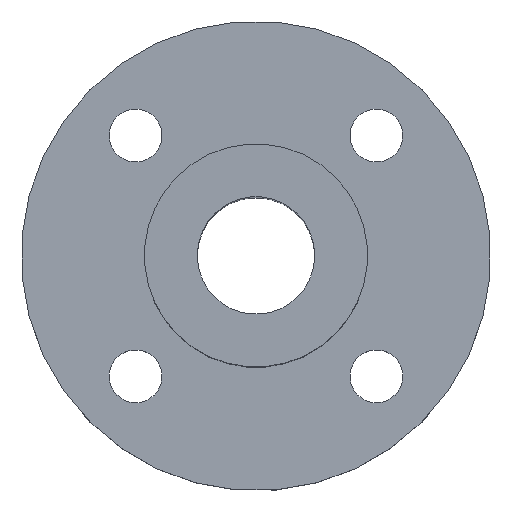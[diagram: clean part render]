
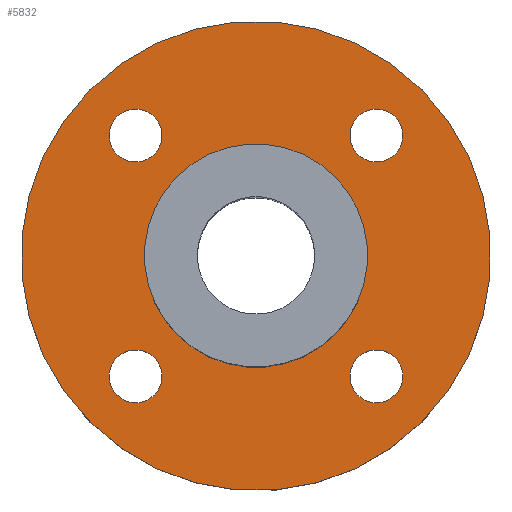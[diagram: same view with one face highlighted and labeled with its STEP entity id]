
A CAD part, top view. The second image highlights one B-rep face of the part: STEP entity #5832.
In plain terms, the highlighted planar face has unit normal (0, 0, 1).
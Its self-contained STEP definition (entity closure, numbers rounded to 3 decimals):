
#113=CIRCLE('',#6200,9.5);
#117=CIRCLE('',#6208,20.);
#118=CIRCLE('',#6210,2.25);
#119=CIRCLE('',#6211,2.25);
#120=CIRCLE('',#6212,2.25);
#121=CIRCLE('',#6213,2.25);
#528=ORIENTED_EDGE('',*,*,#2202,.F.);
#529=ORIENTED_EDGE('',*,*,#2203,.F.);
#530=ORIENTED_EDGE('',*,*,#2204,.F.);
#531=ORIENTED_EDGE('',*,*,#2205,.F.);
#532=ORIENTED_EDGE('',*,*,#2197,.T.);
#533=ORIENTED_EDGE('',*,*,#2201,.T.);
#2197=EDGE_CURVE('',#3037,#3037,#113,.F.);
#2201=EDGE_CURVE('',#3041,#3041,#117,.T.);
#2202=EDGE_CURVE('',#3042,#3042,#118,.T.);
#2203=EDGE_CURVE('',#3043,#3043,#119,.T.);
#2204=EDGE_CURVE('',#3044,#3044,#120,.T.);
#2205=EDGE_CURVE('',#3045,#3045,#121,.T.);
#3037=VERTEX_POINT('',#9170);
#3041=VERTEX_POINT('',#9182);
#3042=VERTEX_POINT('',#9185);
#3043=VERTEX_POINT('',#9187);
#3044=VERTEX_POINT('',#9189);
#3045=VERTEX_POINT('',#9191);
#4780=EDGE_LOOP('',(#528));
#4781=EDGE_LOOP('',(#529));
#4782=EDGE_LOOP('',(#530));
#4783=EDGE_LOOP('',(#531));
#4784=EDGE_LOOP('',(#532));
#4785=EDGE_LOOP('',(#533));
#5200=FACE_BOUND('',#4780,.T.);
#5201=FACE_BOUND('',#4781,.T.);
#5202=FACE_BOUND('',#4782,.T.);
#5203=FACE_BOUND('',#4783,.T.);
#5204=FACE_BOUND('',#4784,.T.);
#5205=FACE_BOUND('',#4785,.T.);
#5562=PLANE('',#6209);
#5832=ADVANCED_FACE('',(#5200,#5201,#5202,#5203,#5204,#5205),#5562,.T.);
#6200=AXIS2_PLACEMENT_3D('',#9169,#6743,#6744);
#6208=AXIS2_PLACEMENT_3D('',#9181,#6759,#6760);
#6209=AXIS2_PLACEMENT_3D('',#9183,#6761,#6762);
#6210=AXIS2_PLACEMENT_3D('',#9184,#6763,#6764);
#6211=AXIS2_PLACEMENT_3D('',#9186,#6765,#6766);
#6212=AXIS2_PLACEMENT_3D('',#9188,#6767,#6768);
#6213=AXIS2_PLACEMENT_3D('',#9190,#6769,#6770);
#6743=DIRECTION('',(0.,0.,1.));
#6744=DIRECTION('',(0.707,-0.707,0.));
#6759=DIRECTION('',(0.,0.,1.));
#6760=DIRECTION('',(0.707,-0.707,0.));
#6761=DIRECTION('',(0.,0.,1.));
#6762=DIRECTION('',(0.707,-0.707,0.));
#6763=DIRECTION('',(0.,0.,1.));
#6764=DIRECTION('',(0.707,-0.707,0.));
#6765=DIRECTION('',(0.,0.,1.));
#6766=DIRECTION('',(0.707,-0.707,0.));
#6767=DIRECTION('',(0.,0.,1.));
#6768=DIRECTION('',(0.707,-0.707,0.));
#6769=DIRECTION('',(0.,0.,1.));
#6770=DIRECTION('',(0.707,-0.707,0.));
#9169=CARTESIAN_POINT('',(0.,0.,0.));
#9170=CARTESIAN_POINT('',(6.718,-6.718,0.));
#9181=CARTESIAN_POINT('',(0.,0.,0.));
#9182=CARTESIAN_POINT('',(14.142,-14.142,0.));
#9183=CARTESIAN_POINT('',(0.,0.,0.));
#9184=CARTESIAN_POINT('',(10.253,10.253,0.));
#9185=CARTESIAN_POINT('',(11.844,8.662,0.));
#9186=CARTESIAN_POINT('',(-10.253,10.253,0.));
#9187=CARTESIAN_POINT('',(-8.662,8.662,0.));
#9188=CARTESIAN_POINT('',(-10.253,-10.253,0.));
#9189=CARTESIAN_POINT('',(-8.662,-11.844,0.));
#9190=CARTESIAN_POINT('',(10.253,-10.253,0.));
#9191=CARTESIAN_POINT('',(11.844,-11.844,0.));
